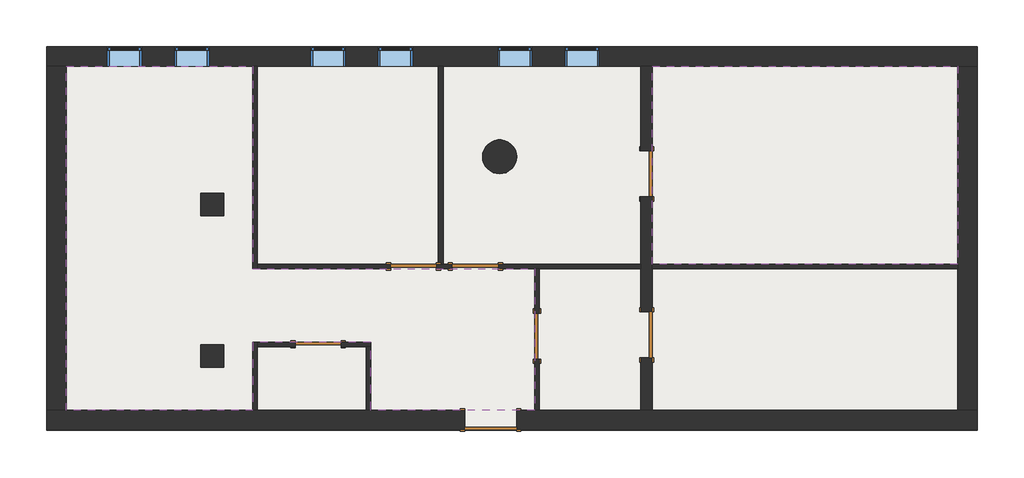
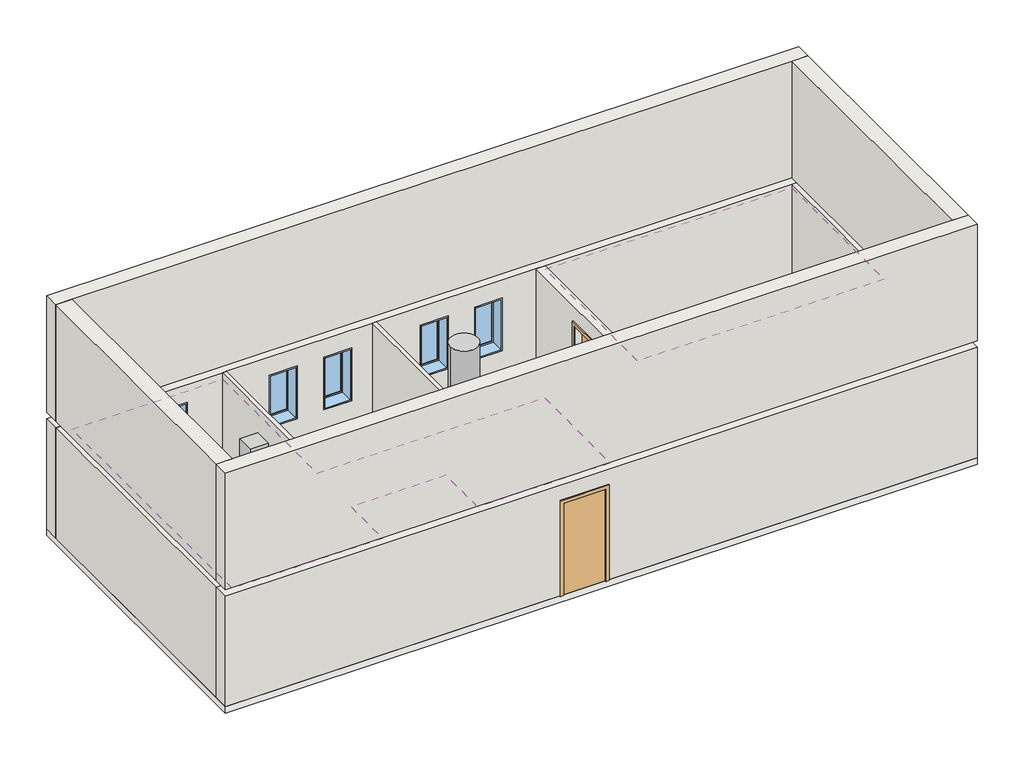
# One storey: 12 walls, 7 doors, 6 windows, 3 columns, 2 coverings, 1 slab.
"""IFC4 building model written with IfcOpenShell, lengths in millimetres."""

from ifc_helpers import new_model, si_unit, frame, origin, origin_with_axes, place, context, project, spatial, polyline, outline, extrude, faceted_brep, transform, mapped, element, save
from components import column_20871b20, column_0de62f57, door_526e4cd8, door_eee9776d, door_cbe18f88, door_70678a7c, window_2c28ef1d

model = new_model("IFC4")

# Units and contexts
model_context = context("Model", 3, world=origin())
ifc_project = project(units=[si_unit("LENGTHUNIT", "METRE", prefix="MILLI")], contexts=[model_context])

# Site, building, storey
site = spatial("IfcSite", under=ifc_project)
building = spatial("IfcBuilding", under=site)
storey = spatial("IfcBuildingStorey", under=building, Name="Уровень 1", Elevation=0.0)

# Columns
placement = place(None, origin())
column_shape = column_20871b20(model_context)
element("IfcColumn", 1, ObjectType="ADSK_КолоннаЖБ_Прямоугольная : 400x400 мм", at=placement, inside=storey, context=model_context, shape_type="MappedRepresentation", body=[
    mapped(column_shape, transform((2755.0, 3735.0, 0.0), x_axis=(1.0, 0.0, 0.0), y_axis=(0.0, 1.0, 0.0), z_axis=(0.0, 0.0, 1.0))),
])
element("IfcColumn", 2, ObjectType="ADSK_КолоннаЖБ_Прямоугольная : 400x400 мм", at=placement, inside=storey, context=model_context, shape_type="MappedRepresentation", body=[
    mapped(column_shape, transform((2755.0, 1055.0, 0.0), x_axis=(1.0, 0.0, 0.0), y_axis=(0.0, 1.0, 0.0), z_axis=(0.0, 0.0, 1.0))),
])
column_2_shape = column_0de62f57(model_context)
element("IfcColumn", 3, ObjectType="ADSK_КолоннаЖБ_Круглая : D600 мм", at=placement, inside=storey, context=model_context, shape_type="MappedRepresentation", body=[
    mapped(column_2_shape, transform((7835.0, 4575.0, 0.0), x_axis=(1.0, 0.0, 0.0), y_axis=(0.0, 1.0, 0.0), z_axis=(0.0, 0.0, 1.0))),
])

# Coverings
element("IfcCovering", 4, ObjectType="Сетка 600 x 1200 мм", at=placement, inside=storey, context=model_context, shape_type="SweptSolid", body=[
    extrude(outline(polyline([(3475.0, 1300.0), (3475.0, 95.0), (175.0, 95.0), (175.0, 6175.0), (3475.0, 6175.0), (3475.0, 2595.0), (8455.0, 2595.0), (8455.0, 95.0), (5555.0, 95.0), (5555.0, 1300.0), (3475.0, 1300.0)])), frame((0.0, 0.0, 2400.0), z_axis=(0.0, 0.0, 1.0), x_axis=(1.0, 0.0, 0.0)), (0.0, 0.0, 1.0), 52.0),
])
element("IfcCovering", 5, ObjectType="Сетка 600 x 1200 мм", at=placement, inside=storey, context=model_context, shape_type="SweptSolid", body=[
    extrude(outline(polyline([(15935.0, 2675.0), (10535.0, 2675.0), (10535.0, 6175.0), (15935.0, 6175.0), (15935.0, 2675.0)])), frame((0.0, 0.0, 2473.0), z_axis=(0.0, 0.0, 1.0), x_axis=(1.0, 0.0, 0.0)), (0.0, 0.0, 1.0), 52.0),
])

# Doors
door_shape = door_526e4cd8(model_context)
element("IfcDoor", 6, ObjectType="Одиночные-Щитовые : 0813 x 2134 мм", at=placement, inside=storey, context=model_context, shape_type="MappedRepresentation", body=[
    mapped(door_shape, transform((6313.5, 2635.0, 0.0), x_axis=(1.0, 0.0, 0.0), y_axis=(0.0, 1.0, 0.0), z_axis=(0.0, 0.0, 1.0))),
])
element("IfcDoor", 7, ObjectType="Одиночные-Щитовые : 0813 x 2134 мм", at=placement, inside=storey, context=model_context, shape_type="MappedRepresentation", body=[
    mapped(door_shape, transform((4628.5, 1260.0, 0.0), x_axis=(1.0, 0.0, 0.0), y_axis=(0.0, 1.0, 0.0), z_axis=(0.0, 0.0, 1.0))),
])
door_2_shape = door_eee9776d(model_context)
element("IfcDoor", 8, ObjectType="Одиночные-Щитовые : 0813 x 2134 мм", at=placement, inside=storey, context=model_context, shape_type="MappedRepresentation", body=[
    mapped(door_2_shape, transform((8495.0, 1406.5, 0.0), x_axis=(0.0, -1.0, 0.0), y_axis=(1.0, 0.0, 0.0), z_axis=(0.0, 0.0, 1.0))),
])
element("IfcDoor", 9, ObjectType="Одиночные-Щитовые : 0813 x 2134 мм", at=placement, inside=storey, context=model_context, shape_type="MappedRepresentation", body=[
    mapped(door_2_shape, transform((7406.5, 2635.0, 0.0), x_axis=(-1.0, 0.0, 0.0), y_axis=(0.0, -1.0, 0.0), z_axis=(0.0, 0.0, 1.0))),
])
door_3_shape = door_cbe18f88(model_context)
element("IfcDoor", 10, ObjectType="Одиночные-Щитовые : 0813 x 2134 мм", at=placement, inside=storey, context=model_context, shape_type="MappedRepresentation", body=[
    mapped(door_3_shape, transform((10435.0, 1426.5, 0.0), x_axis=(0.0, -1.0, 0.0), y_axis=(1.0, 0.0, 0.0), z_axis=(0.0, 0.0, 1.0))),
])
element("IfcDoor", 11, ObjectType="Одиночные-Щитовые : 0813 x 2134 мм", at=placement, inside=storey, context=model_context, shape_type="MappedRepresentation", body=[
    mapped(door_3_shape, transform((10435.0, 4273.5, 0.0), x_axis=(0.0, -1.0, 0.0), y_axis=(1.0, 0.0, 0.0), z_axis=(0.0, 0.0, 1.0))),
])
door_4_shape = door_70678a7c(model_context)
element("IfcDoor", 12, ObjectType="Одиночные-Щитовые : 0915 x 2134 мм", at=placement, inside=storey, context=model_context, shape_type="MappedRepresentation", body=[
    mapped(door_4_shape, transform((7677.5, -80.0, 0.0), x_axis=(1.0, 0.0, 0.0), y_axis=(0.0, 1.0, 0.0), z_axis=(0.0, 0.0, 1.0))),
])

# Slab
element("IfcSlab", 13, ObjectType="Типовой 150мм", at=placement, inside=storey, context=model_context, shape_type="SweptSolid", body=[
    extrude(outline(polyline([(-175.0, 6525.0), (16285.0, 6525.0), (16285.0, -255.0), (-175.0, -255.0), (-175.0, 6525.0)])), frame((0.0, 0.0, -150.0), z_axis=(0.0, 0.0, 1.0), x_axis=(1.0, 0.0, 0.0)), (0.0, 0.0, 1.0), 150.0),
])

# Walls
element("IfcWall", 14, ObjectType="Наружный - Трехслойные панели с утеплителем толщиной 350 мм", at=placement, inside=storey, context=model_context, shape_type="Brep", body=[
    faceted_brep([(16285.0, -255.0, 5400.0), (-175.0, -255.0, 5400.0), (-175.0, -255.0, 2700.0), (16285.0, -255.0, 2700.0), (-175.0, 95.0, 5400.0), (175.0, 95.0, 5400.0), (15935.0, 95.0, 5400.0), (16285.0, 95.0, 5400.0), (16285.0, 95.0, 2700.0), (15935.0, 95.0, 2700.0), (11375.0, 95.0, 2700.0), (11175.0, 95.0, 2700.0), (175.0, 95.0, 2700.0), (-175.0, 95.0, 2700.0)], [[[0, 1, 2, 3]], [[4, 5, 6, 7, 8, 9, 10, 11, 12, 13]], [[1, 0, 7, 6, 5, 4]], [[1, 4, 13, 2]], [[7, 0, 3, 8]], [[3, 2, 13, 12, 11, 10, 9, 8]]]),
    faceted_brep([(8135.0, -255.0, 2134.0), (8135.0, -255.0, 0.0), (16285.0, -255.0, 0.0), (16285.0, -255.0, 2550.0), (-175.0, -255.0, 2550.0), (-175.0, -255.0, 0.0), (7220.0, -255.0, 0.0), (7220.0, -255.0, 2134.0), (8135.0, 95.0, 0.0), (8135.0, 95.0, 2134.0), (7220.0, 95.0, 2134.0), (7220.0, 95.0, 0.0), (5555.0, 95.0, 0.0), (5475.0, 95.0, 0.0), (3555.0, 95.0, 0.0), (3475.0, 95.0, 0.0), (175.0, 95.0, 0.0), (-175.0, 95.0, 0.0), (-175.0, 95.0, 2550.0), (175.0, 95.0, 2550.0), (3475.0, 95.0, 2550.0), (3555.0, 95.0, 2550.0), (5475.0, 95.0, 2550.0), (5555.0, 95.0, 2550.0), (8455.0, 95.0, 2550.0), (8535.0, 95.0, 2550.0), (10335.0, 95.0, 2550.0), (10535.0, 95.0, 2550.0), (15935.0, 95.0, 2550.0), (16285.0, 95.0, 2550.0), (16285.0, 95.0, 0.0), (15935.0, 95.0, 0.0), (10535.0, 95.0, 0.0), (10335.0, 95.0, 0.0), (8535.0, 95.0, 0.0), (8455.0, 95.0, 0.0)], [[[0, 1, 2, 3, 4, 5, 6, 7]], [[8, 9, 10, 11, 12, 13, 14, 15, 16, 17, 18, 19, 20, 21, 22, 23, 24, 25, 26, 27, 28, 29, 30, 31, 32, 33, 34, 35]], [[5, 17, 16, 15, 14, 13, 12, 11, 6]], [[1, 8, 35, 34, 33, 32, 31, 30, 2]], [[17, 5, 4, 18]], [[9, 8, 1, 0]], [[10, 9, 0, 7]], [[11, 10, 7, 6]], [[2, 30, 29, 3]], [[4, 3, 29, 28, 27, 26, 25, 24, 23, 22, 21, 20, 19, 18]]]),
])
element("IfcWall", 15, ObjectType="Типовой - 200мм", at=placement, inside=storey, context=model_context, shape_type="Brep", body=[
    faceted_brep([(10535.0, 1833.0, 0.0), (10535.0, 2595.0, 0.0), (10535.0, 2675.0, 0.0), (10535.0, 3867.0, 0.0), (10535.0, 3867.0, 2134.0), (10535.0, 4680.0, 2134.0), (10535.0, 4680.0, 0.0), (10535.0, 6175.0, 0.0), (10535.0, 6175.0, 2550.0), (10535.0, 2675.0, 2550.0), (10535.0, 2595.0, 2550.0), (10535.0, 95.0, 2550.0), (10535.0, 95.0, 0.0), (10535.0, 1020.0, 0.0), (10535.0, 1020.0, 2134.0), (10535.0, 1833.0, 2134.0), (10335.0, 3867.0, 2134.0), (10335.0, 3867.0, 0.0), (10335.0, 2675.0, 0.0), (10335.0, 2595.0, 0.0), (10335.0, 1833.0, 0.0), (10335.0, 1833.0, 2134.0), (10335.0, 1020.0, 2134.0), (10335.0, 1020.0, 0.0), (10335.0, 95.0, 0.0), (10335.0, 95.0, 2550.0), (10335.0, 2595.0, 2550.0), (10335.0, 2675.0, 2550.0), (10335.0, 6175.0, 2550.0), (10335.0, 6175.0, 0.0), (10335.0, 4680.0, 0.0), (10335.0, 4680.0, 2134.0)], [[[0, 1, 2, 3, 4, 5, 6, 7, 8, 9, 10, 11, 12, 13, 14, 15]], [[16, 17, 18, 19, 20, 21, 22, 23, 24, 25, 26, 27, 28, 29, 30, 31]], [[24, 23, 13, 12]], [[30, 29, 7, 6]], [[20, 19, 18, 17, 3, 2, 1, 0]], [[11, 10, 9, 8, 28, 27, 26, 25]], [[12, 11, 25, 24]], [[8, 7, 29, 28]], [[14, 13, 23, 22]], [[15, 14, 22, 21]], [[0, 15, 21, 20]], [[4, 3, 17, 16]], [[5, 4, 16, 31]], [[6, 5, 31, 30]]]),
])
element("IfcWall", 16, ObjectType="Наружный - Трехслойные панели с утеплителем толщиной 350 мм", at=placement, inside=storey, context=model_context, shape_type="Brep", body=[
    faceted_brep([(16285.0, 6525.0, 0.0), (-175.0, 6525.0, 0.0), (-175.0, 6525.0, 2550.0), (16285.0, 6525.0, 2550.0), (8989.4055139, 6525.0, 2135.0), (8989.4055139, 6525.0, 915.0), (9599.4055139, 6525.0, 915.0), (9599.4055139, 6525.0, 2135.0), (7799.4055139, 6525.0, 2135.0), (7799.4055139, 6525.0, 915.0), (8409.4055139, 6525.0, 915.0), (8409.4055139, 6525.0, 2135.0), (5689.0, 6525.0, 2135.0), (5689.0, 6525.0, 915.0), (6299.0, 6525.0, 915.0), (6299.0, 6525.0, 2135.0), (4499.0, 6525.0, 2135.0), (4499.0, 6525.0, 915.0), (5109.0, 6525.0, 915.0), (5109.0, 6525.0, 2135.0), (2089.0, 6525.0, 2135.0), (2089.0, 6525.0, 915.0), (2699.0, 6525.0, 915.0), (2699.0, 6525.0, 2135.0), (899.0, 6525.0, 2135.0), (899.0, 6525.0, 915.0), (1509.0, 6525.0, 915.0), (1509.0, 6525.0, 2135.0), (-175.0, 6175.0, 0.0), (175.0, 6175.0, 0.0), (3475.0, 6175.0, 0.0), (3555.0, 6175.0, 0.0), (6755.0, 6175.0, 0.0), (6835.0, 6175.0, 0.0), (10335.0, 6175.0, 0.0), (10535.0, 6175.0, 0.0), (15935.0, 6175.0, 0.0), (16285.0, 6175.0, 0.0), (16285.0, 6175.0, 2550.0), (15935.0, 6175.0, 2550.0), (10535.0, 6175.0, 2550.0), (10335.0, 6175.0, 2550.0), (6835.0, 6175.0, 2550.0), (6755.0, 6175.0, 2550.0), (3555.0, 6175.0, 2550.0), (3475.0, 6175.0, 2550.0), (175.0, 6175.0, 2550.0), (-175.0, 6175.0, 2550.0), (8989.4055139, 6175.0, 915.0), (8989.4055139, 6175.0, 2135.0), (9599.4055139, 6175.0, 2135.0), (9599.4055139, 6175.0, 915.0), (7799.4055139, 6175.0, 915.0), (7799.4055139, 6175.0, 2135.0), (8409.4055139, 6175.0, 2135.0), (8409.4055139, 6175.0, 915.0), (5689.0, 6175.0, 915.0), (5689.0, 6175.0, 2135.0), (6299.0, 6175.0, 2135.0), (6299.0, 6175.0, 915.0), (4499.0, 6175.0, 915.0), (4499.0, 6175.0, 2135.0), (5109.0, 6175.0, 2135.0), (5109.0, 6175.0, 915.0), (2089.0, 6175.0, 915.0), (2089.0, 6175.0, 2135.0), (2699.0, 6175.0, 2135.0), (2699.0, 6175.0, 915.0), (899.0, 6175.0, 915.0), (899.0, 6175.0, 2135.0), (1509.0, 6175.0, 2135.0), (1509.0, 6175.0, 915.0)], [[[0, 1, 2, 3], [4, 5, 6, 7], [8, 9, 10, 11], [12, 13, 14, 15], [16, 17, 18, 19], [20, 21, 22, 23], [24, 25, 26, 27]], [[28, 29, 30, 31, 32, 33, 34, 35, 36, 37, 38, 39, 40, 41, 42, 43, 44, 45, 46, 47], [48, 49, 50, 51], [52, 53, 54, 55], [56, 57, 58, 59], [60, 61, 62, 63], [64, 65, 66, 67], [68, 69, 70, 71]], [[1, 0, 37, 36, 35, 34, 33, 32, 31, 30, 29, 28]], [[1, 28, 47, 2]], [[48, 5, 4, 49]], [[6, 51, 50, 7]], [[5, 48, 51, 6]], [[52, 9, 8, 53]], [[10, 55, 54, 11]], [[9, 52, 55, 10]], [[56, 13, 12, 57]], [[14, 59, 58, 15]], [[13, 56, 59, 14]], [[60, 17, 16, 61]], [[18, 63, 62, 19]], [[17, 60, 63, 18]], [[64, 21, 20, 65]], [[22, 67, 66, 23]], [[21, 64, 67, 22]], [[68, 25, 24, 69]], [[26, 71, 70, 27]], [[25, 68, 71, 26]], [[7, 50, 49, 4]], [[11, 54, 53, 8]], [[15, 58, 57, 12]], [[19, 62, 61, 16]], [[23, 66, 65, 20]], [[27, 70, 69, 24]], [[37, 0, 3, 38]], [[3, 2, 47, 46, 45, 44, 43, 42, 41, 40, 39, 38]]]),
    faceted_brep([(-175.0, 6525.0, 5400.0), (16285.0, 6525.0, 5400.0), (16285.0, 6525.0, 2700.0), (-175.0, 6525.0, 2700.0), (16285.0, 6175.0, 5400.0), (15935.0, 6175.0, 5400.0), (175.0, 6175.0, 5400.0), (-175.0, 6175.0, 5400.0), (-175.0, 6175.0, 2700.0), (175.0, 6175.0, 2700.0), (11175.0, 6175.0, 2700.0), (11375.0, 6175.0, 2700.0), (15935.0, 6175.0, 2700.0), (16285.0, 6175.0, 2700.0)], [[[0, 1, 2, 3]], [[4, 5, 6, 7, 8, 9, 10, 11, 12, 13]], [[1, 0, 7, 6, 5, 4]], [[7, 0, 3, 8]], [[1, 4, 13, 2]], [[3, 2, 13, 12, 11, 10, 9, 8]]]),
])
element("IfcWall", 17, ObjectType="Наружный - Трехслойные панели с утеплителем толщиной 350 мм", at=placement, inside=storey, context=model_context, shape_type="SweptSolid", body=[
    extrude(outline(polyline([(-175.0, 95.0), (-175.0, 6175.0), (175.0, 6175.0), (175.0, 95.0), (-175.0, 95.0)])), origin_with_axes(), (0.0, 0.0, 1.0), 2550.0),
    extrude(outline(polyline([(-175.0, 95.0), (-175.0, 6175.0), (175.0, 6175.0), (175.0, 95.0), (-175.0, 95.0)])), frame((0.0, 0.0, 2700.0), z_axis=(0.0, 0.0, 1.0), x_axis=(1.0, 0.0, 0.0)), (0.0, 0.0, 1.0), 2700.0),
])
element("IfcWall", 18, ObjectType="Внутренние - Перегородка гипсовых пазогребневых плит толщиной 80 мм", at=placement, inside=storey, context=model_context, shape_type="Brep", body=[
    faceted_brep([(3475.0, 6175.0, 0.0), (3475.0, 2595.0, 0.0), (3475.0, 2595.0, 2550.0), (3475.0, 6175.0, 2550.0), (3555.0, 6175.0, 0.0), (3555.0, 6175.0, 2550.0), (3555.0, 2675.0, 2550.0), (3555.0, 2595.0, 2550.0), (3555.0, 2595.0, 0.0), (3555.0, 2675.0, 0.0)], [[[0, 1, 2, 3]], [[4, 5, 6, 7, 8, 9]], [[1, 0, 4, 9, 8]], [[3, 2, 7, 6, 5]], [[0, 3, 5, 4]], [[2, 1, 8, 7]]]),
])
element("IfcWall", 19, ObjectType="Внутренние - Перегородка гипсовых пазогребневых плит толщиной 80 мм", at=placement, inside=storey, context=model_context, shape_type="Brep", body=[
    faceted_brep([(3555.0, 2595.0, 2550.0), (3555.0, 2595.0, 0.0), (5907.0, 2595.0, 0.0), (5907.0, 2595.0, 2134.0), (6720.0, 2595.0, 2134.0), (6720.0, 2595.0, 0.0), (7000.0, 2595.0, 0.0), (7000.0, 2595.0, 2134.0), (7813.0, 2595.0, 2134.0), (7813.0, 2595.0, 0.0), (8455.0, 2595.0, 0.0), (8535.0, 2595.0, 0.0), (10335.0, 2595.0, 0.0), (10335.0, 2595.0, 2550.0), (8535.0, 2595.0, 2550.0), (8455.0, 2595.0, 2550.0), (3555.0, 2675.0, 0.0), (3555.0, 2675.0, 2550.0), (6755.0, 2675.0, 2550.0), (6835.0, 2675.0, 2550.0), (10335.0, 2675.0, 2550.0), (10335.0, 2675.0, 0.0), (7813.0, 2675.0, 0.0), (7813.0, 2675.0, 2134.0), (7000.0, 2675.0, 2134.0), (7000.0, 2675.0, 0.0), (6835.0, 2675.0, 0.0), (6755.0, 2675.0, 0.0), (6720.0, 2675.0, 0.0), (6720.0, 2675.0, 2134.0), (5907.0, 2675.0, 2134.0), (5907.0, 2675.0, 0.0)], [[[0, 1, 2, 3, 4, 5, 6, 7, 8, 9, 10, 11, 12, 13, 14, 15]], [[16, 17, 18, 19, 20, 21, 22, 23, 24, 25, 26, 27, 28, 29, 30, 31]], [[1, 16, 31, 2]], [[5, 28, 27, 26, 25, 6]], [[9, 22, 21, 12, 11, 10]], [[17, 0, 15, 14, 13, 20, 19, 18]], [[1, 0, 17, 16]], [[29, 28, 5, 4]], [[30, 29, 4, 3]], [[31, 30, 3, 2]], [[7, 6, 25, 24]], [[8, 7, 24, 23]], [[9, 8, 23, 22]], [[13, 12, 21, 20]]]),
    faceted_brep([(15935.0, 2595.0, 0.0), (15935.0, 2595.0, 2550.0), (10535.0, 2595.0, 2550.0), (10535.0, 2595.0, 0.0), (15935.0, 2675.0, 2550.0), (15935.0, 2675.0, 0.0), (10535.0, 2675.0, 0.0), (10535.0, 2675.0, 2550.0)], [[[0, 1, 2, 3]], [[4, 5, 6, 7]], [[5, 0, 3, 6]], [[1, 4, 7, 2]], [[3, 2, 7, 6]], [[1, 0, 5, 4]]]),
])
element("IfcWall", 20, ObjectType="Внутренние - Перегородка гипсовых пазогребневых плит толщиной 80 мм", at=placement, inside=storey, context=model_context, shape_type="SweptSolid", body=[
    extrude(outline(polyline([(6835.0, 6175.0), (6835.0, 2675.0), (6755.0, 2675.0), (6755.0, 6175.0), (6835.0, 6175.0)])), origin_with_axes(), (0.0, 0.0, 1.0), 2550.0),
])
element("IfcWall", 21, ObjectType="Внутренние - Перегородка гипсовых пазогребневых плит толщиной 80 мм", at=placement, inside=storey, context=model_context, shape_type="Brep", body=[
    faceted_brep([(3555.0, 95.0, 0.0), (3555.0, 1220.0, 0.0), (3555.0, 1300.0, 0.0), (3555.0, 1300.0, 2550.0), (3555.0, 1220.0, 2550.0), (3555.0, 95.0, 2550.0), (3475.0, 95.0, 0.0), (3475.0, 95.0, 2550.0), (3475.0, 1300.0, 2550.0), (3475.0, 1300.0, 0.0)], [[[0, 1, 2, 3, 4, 5]], [[6, 7, 8, 9]], [[2, 1, 0, 6, 9]], [[5, 4, 3, 8, 7]], [[0, 5, 7, 6]], [[3, 2, 9, 8]]]),
])
element("IfcWall", 22, ObjectType="Внутренние - Перегородка гипсовых пазогребневых плит толщиной 80 мм", at=placement, inside=storey, context=model_context, shape_type="Brep", body=[
    faceted_brep([(5035.0, 1220.0, 2134.0), (5035.0, 1220.0, 0.0), (5475.0, 1220.0, 0.0), (5555.0, 1220.0, 0.0), (5555.0, 1220.0, 2550.0), (5475.0, 1220.0, 2550.0), (3555.0, 1220.0, 2550.0), (3555.0, 1220.0, 0.0), (4222.0, 1220.0, 0.0), (4222.0, 1220.0, 2134.0), (5555.0, 1300.0, 0.0), (5035.0, 1300.0, 0.0), (5035.0, 1300.0, 2134.0), (4222.0, 1300.0, 2134.0), (4222.0, 1300.0, 0.0), (3555.0, 1300.0, 0.0), (3555.0, 1300.0, 2550.0), (5555.0, 1300.0, 2550.0)], [[[0, 1, 2, 3, 4, 5, 6, 7, 8, 9]], [[10, 11, 12, 13, 14, 15, 16, 17]], [[8, 7, 15, 14]], [[3, 2, 1, 11, 10]], [[6, 5, 4, 17, 16]], [[7, 6, 16, 15]], [[12, 11, 1, 0]], [[13, 12, 0, 9]], [[14, 13, 9, 8]], [[4, 3, 10, 17]]]),
])
element("IfcWall", 23, ObjectType="Внутренние - Перегородка гипсовых пазогребневых плит толщиной 80 мм", at=placement, inside=storey, context=model_context, shape_type="SweptSolid", body=[
    extrude(outline(polyline([(5555.0, 1220.0), (5555.0, 95.0), (5475.0, 95.0), (5475.0, 1220.0), (5555.0, 1220.0)])), origin_with_axes(), (0.0, 0.0, 1.0), 2550.0),
])
element("IfcWall", 24, ObjectType="Внутренние - Перегородка гипсовых пазогребневых плит толщиной 80 мм", at=placement, inside=storey, context=model_context, shape_type="SweptSolid", body=[
    extrude(outline(polyline([(1000.0, 2134.0), (1000.0, 0.0), (95.0, 0.0), (95.0, 2550.0), (2595.0, 2550.0), (2595.0, 0.0), (1813.0, 0.0), (1813.0, 2134.0), (1000.0, 2134.0)])), frame((8455.0, 0.0, 0.0), z_axis=(1.0, 0.0, 0.0), x_axis=(0.0, 1.0, 0.0)), (0.0, 0.0, 1.0), 80.0),
])
element("IfcWall", 25, ObjectType="Наружный - Трехслойные панели с утеплителем толщиной 350 мм", at=placement, inside=storey, context=model_context, shape_type="Brep", body=[
    faceted_brep([(16285.0, 95.0, 0.0), (16285.0, 6175.0, 0.0), (16285.0, 6175.0, 2550.0), (16285.0, 95.0, 2550.0), (15935.0, 6175.0, 0.0), (15935.0, 2675.0, 0.0), (15935.0, 2595.0, 0.0), (15935.0, 95.0, 0.0), (15935.0, 95.0, 2550.0), (15935.0, 2595.0, 2550.0), (15935.0, 2675.0, 2550.0), (15935.0, 6175.0, 2550.0)], [[[0, 1, 2, 3]], [[4, 5, 6, 7, 8, 9, 10, 11]], [[1, 0, 7, 6, 5, 4]], [[7, 0, 3, 8]], [[1, 4, 11, 2]], [[3, 2, 11, 10, 9, 8]]]),
    faceted_brep([(16285.0, 6175.0, 5400.0), (16285.0, 95.0, 5400.0), (16285.0, 95.0, 2700.0), (16285.0, 6175.0, 2700.0), (15935.0, 95.0, 5400.0), (15935.0, 6175.0, 5400.0), (15935.0, 6175.0, 2700.0), (15935.0, 95.0, 2700.0)], [[[0, 1, 2, 3]], [[4, 5, 6, 7]], [[1, 0, 5, 4]], [[1, 4, 7, 2]], [[5, 0, 3, 6]], [[3, 2, 7, 6]]]),
])

# Windows
window_shape = window_2c28ef1d(model_context)
element("IfcWindow", 26, ObjectType="Фиксированные : 0610 x 1220 мм", at=placement, inside=storey, context=model_context, shape_type="MappedRepresentation", body=[
    mapped(window_shape, transform((1204.0, 6337.0, 0.0), x_axis=(1.0, 0.0, 0.0), y_axis=(0.0, 1.0, 0.0), z_axis=(0.0, 0.0, 1.0))),
])
element("IfcWindow", 27, ObjectType="Фиксированные : 0610 x 1220 мм", at=placement, inside=storey, context=model_context, shape_type="MappedRepresentation", body=[
    mapped(window_shape, transform((2394.0, 6337.0, 0.0), x_axis=(1.0, 0.0, 0.0), y_axis=(0.0, 1.0, 0.0), z_axis=(0.0, 0.0, 1.0))),
])
element("IfcWindow", 28, ObjectType="Фиксированные : 0610 x 1220 мм", at=placement, inside=storey, context=model_context, shape_type="MappedRepresentation", body=[
    mapped(window_shape, transform((4804.0, 6337.0, 0.0), x_axis=(1.0, 0.0, 0.0), y_axis=(0.0, 1.0, 0.0), z_axis=(0.0, 0.0, 1.0))),
])
element("IfcWindow", 29, ObjectType="Фиксированные : 0610 x 1220 мм", at=placement, inside=storey, context=model_context, shape_type="MappedRepresentation", body=[
    mapped(window_shape, transform((5994.0, 6337.0, 0.0), x_axis=(1.0, 0.0, 0.0), y_axis=(0.0, 1.0, 0.0), z_axis=(0.0, 0.0, 1.0))),
])
element("IfcWindow", 30, ObjectType="Фиксированные : 0610 x 1220 мм", at=placement, inside=storey, context=model_context, shape_type="MappedRepresentation", body=[
    mapped(window_shape, transform((8104.4055139, 6337.0, 0.0), x_axis=(1.0, 0.0, 0.0), y_axis=(0.0, 1.0, 0.0), z_axis=(0.0, 0.0, 1.0))),
])
element("IfcWindow", 31, ObjectType="Фиксированные : 0610 x 1220 мм", at=placement, inside=storey, context=model_context, shape_type="MappedRepresentation", body=[
    mapped(window_shape, transform((9294.4055139, 6337.0, 0.0), x_axis=(1.0, 0.0, 0.0), y_axis=(0.0, 1.0, 0.0), z_axis=(0.0, 0.0, 1.0))),
])

save(model, "model.ifc")
